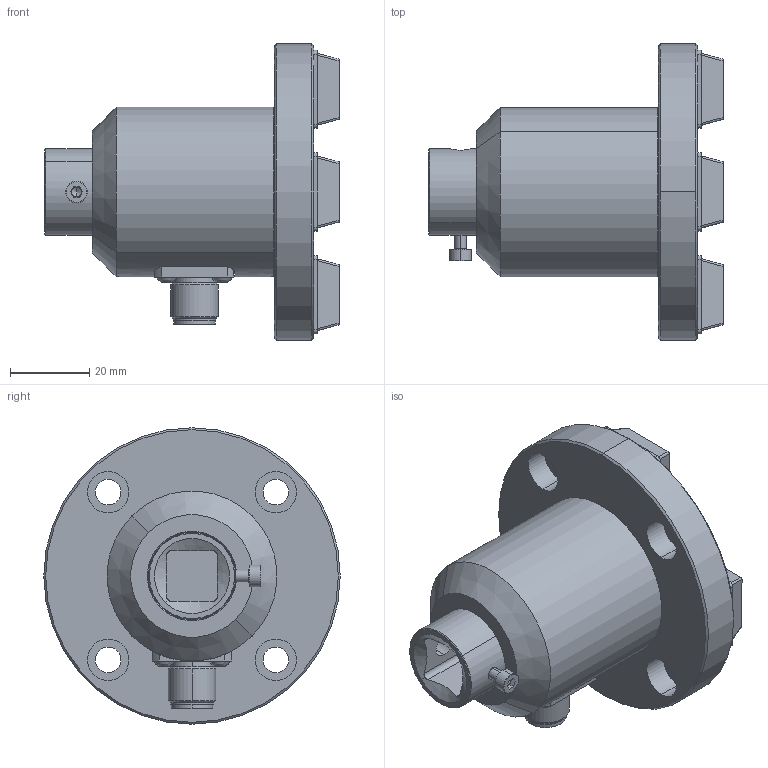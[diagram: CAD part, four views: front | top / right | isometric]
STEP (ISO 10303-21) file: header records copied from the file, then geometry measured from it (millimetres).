
FILE_DESCRIPTION (( 'STEP AP214' ), '1' );
FILE_NAME ('023100 KT100 Trasduttore attuale da 100 Nm Uscita 1-2'''' Femmina.STEP', '2023-02-28T08:01:24', ( '' ), ( '' ), 'SwSTEP 2.0', 'SolidWorks 2022', '' );
FILE_SCHEMA (( 'AUTOMOTIVE_DESIGN' ));
Length unit declared in the file: millimetre
Products named in the file (1): 023100    KT100  Trasduttore attuale da 100 Nm Uscita 1-2'''' Femmina
Bounding box: 74.39 x 75 x 75 mm (x, y, z)
Surface area: 28354.4 mm2 (no closed solid volume)
Topology: 0 solids, 29 shells, 403 faces, 1138 edges, 726 vertices
Faces by surface type: plane 182, cylinder 129, cone 68, torus 20, bspline 4
Entity records: 17968 total; most frequent: CARTESIAN_POINT 3265, DIRECTION 2217, ORIENTED_EDGE 1911, EDGE_CURVE 1112, AXIS2_PLACEMENT_3D 796, VERTEX_POINT 726, LINE 625, VECTOR 625
